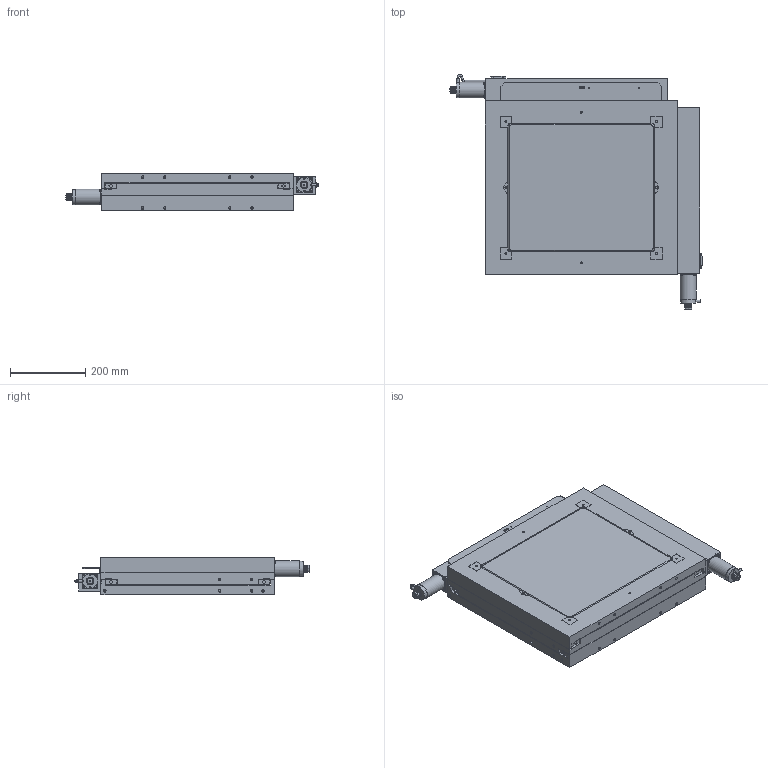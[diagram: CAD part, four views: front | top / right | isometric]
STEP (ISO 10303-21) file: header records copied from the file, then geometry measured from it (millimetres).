
FILE_DESCRIPTION(/* description */ (''),/* implementation_level */ '2;1');
FILE_NAME(/* name */ 'H:\Inventor\Katalog\3D-CAD-Modelle\STP neu\KT9-NSxx-CAD.stp',/* time_stamp */ '2024-01-18T07:29:03+01:00',/* author */ ('KON3'),/* organization */ (''),/* preprocessor_version */ 'ST-DEVELOPER v18',/* originating_system */ 'Autodesk Inventor 2020',/* authorisation */ '');
FILE_SCHEMA (('AUTOMOTIVE_DESIGN { 1 0 10303 214 3 1 1 }'));
Products named in the file (5): KT9-NSxx-CAD; KT9-NSxx_unten; KT9-NSxx_mitte; KT9-NSxx_NGxx_oben; KT9.82
Assembly tree (4 placements, depth 2):
  KT9-NSxx-CAD
    KT9-NSxx_unten
    KT9-NSxx_mitte
    KT9-NSxx_NGxx_oben
    KT9.82
Bounding box: 671.17 x 623.71 x 100 mm (x, y, z)
Volume: 21143697.9 mm3; surface area: 2343441.7 mm2
Topology: 67 solids, 67 shells, 2944 faces, 7677 edges, 5163 vertices
Faces by surface type: plane 1694, cylinder 665, bspline 388, cone 163, torus 32, sphere 2
Full cylindrical faces by diameter (mm): 1 x60, 2.156 x4, 2.459 x6, 2.729 x4, 3 x12, 3.2 x12, 3.242 x9, 3.4 x2, 4 x7, 4.134 x57, 4.3 x8, 4.5 x3, 4.917 x88, 5 x16, 5.3 x2, 5.5 x4, 6.647 x16, 9.5 x92, 10 x16, 22 x2, 23 x2, 40 x2, 42 x2, 81 x1
Entity records: 98011 total; most frequent: CARTESIAN_POINT 22925, ORIENTED_EDGE 15118, DIRECTION 13978, EDGE_CURVE 7559, VERTEX_POINT 5163, AXIS2_PLACEMENT_3D 4684, LINE 4610, VECTOR 4610
